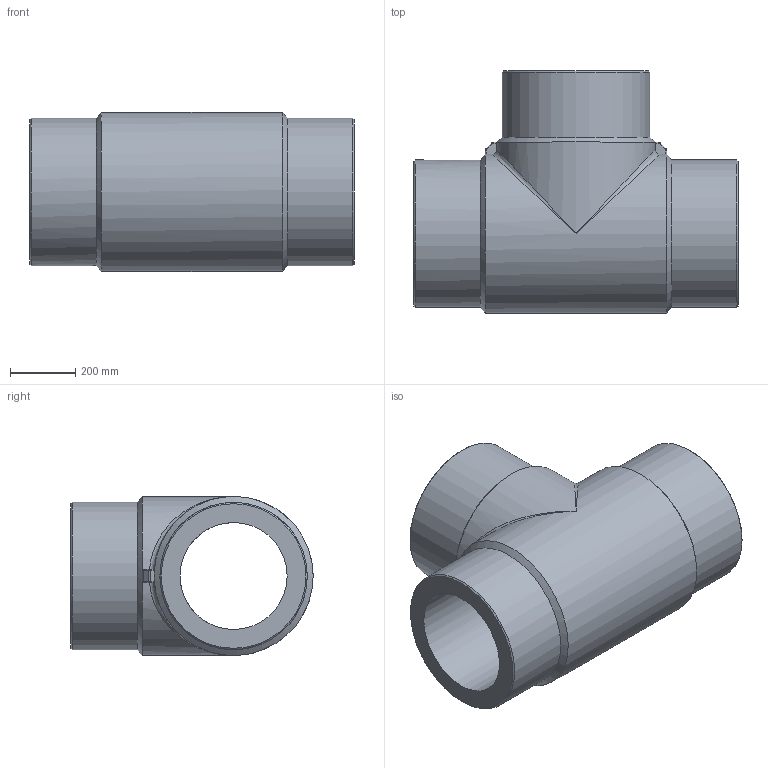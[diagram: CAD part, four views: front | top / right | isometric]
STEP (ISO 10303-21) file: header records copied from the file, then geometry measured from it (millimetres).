
FILE_DESCRIPTION(/* description */ ('Unknown'),/* implementation_level */ '2;1');
FILE_NAME(/* name */ 'TP450H',/* time_stamp */ '2022-06-06T16:47:51+02:00',/* author */ ('Unknown'),/* organization */ ('Unknown'),/* preprocessor_version */ 'ST-DEVELOPER v18.102',/* originating_system */ 'Solid Edge',/* authorisation */ 'Unknown');
FILE_SCHEMA (('AUTOMOTIVE_DESIGN {1 0 10303 214 3 1 1}'));
Length unit declared in the file: millimetre
Products named in the file (1): TP450H
Bounding box: 990 x 740 x 486 mm (x, y, z)
Volume: 107733903.9 mm3; surface area: 3292906.5 mm2
Topology: 1 solids, 1 shells, 55 faces, 136 edges, 78 vertices
Faces by surface type: cylinder 24, plane 13, torus 8, cone 6, bspline 4
Full cylindrical faces by diameter (mm): 327 x2, 450 x3
Entity records: 1668 total; most frequent: CARTESIAN_POINT 438, DIRECTION 268, ORIENTED_EDGE 228, EDGE_CURVE 114, AXIS2_PLACEMENT_3D 114, VERTEX_POINT 72, EDGE_LOOP 70, FACE_BOUND 70
